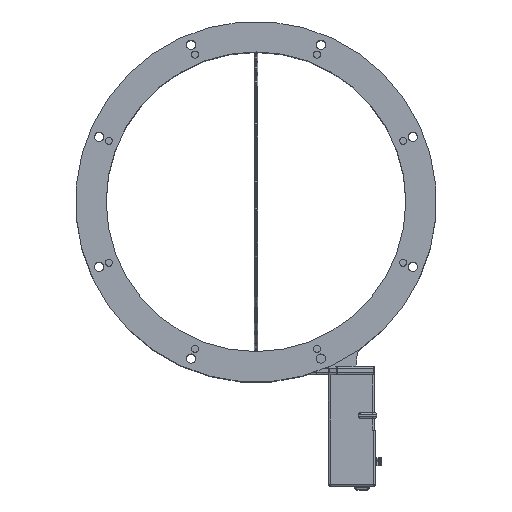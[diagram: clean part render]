
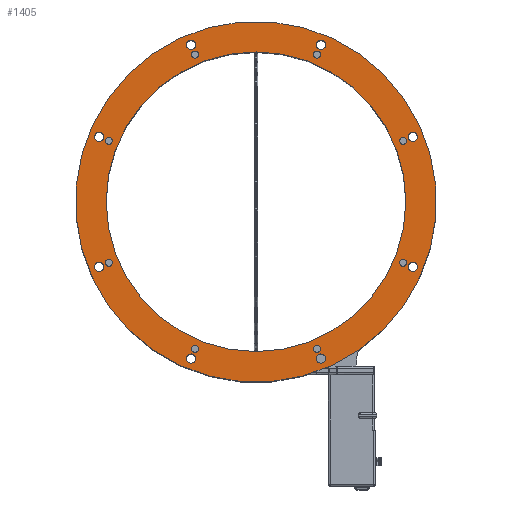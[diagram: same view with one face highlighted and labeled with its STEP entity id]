
A CAD part, top view. The second image highlights one B-rep face of the part: STEP entity #1405.
In plain terms, the highlighted planar face has unit normal (0, 0, 1).
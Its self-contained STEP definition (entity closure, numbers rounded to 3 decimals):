
#918=CARTESIAN_POINT('',(171.756,-171.756,219.));
#919=VERTEX_POINT('',#918);
#928=CARTESIAN_POINT('',(0.,0.,219.));
#929=DIRECTION('',(0.707,-0.707,0.));
#930=DIRECTION('',(0.,0.,-1.));
#931=AXIS2_PLACEMENT_3D('',#928,#930,#929);
#932=CIRCLE('',#931,242.9);
#933=EDGE_CURVE('',#919,#919,#932,.T.);
#944=CARTESIAN_POINT('',(217.449,87.481,219.));
#945=VERTEX_POINT('',#944);
#952=CARTESIAN_POINT('',(211.199,87.481,219.));
#953=DIRECTION('',(1.,0.,0.));
#954=DIRECTION('',(0.,0.,1.));
#955=AXIS2_PLACEMENT_3D('',#952,#954,#953);
#956=CIRCLE('',#955,6.25);
#957=EDGE_CURVE('',#945,#945,#956,.T.);
#969=CARTESIAN_POINT('',(202.922,-82.086,219.));
#970=VERTEX_POINT('',#969);
#977=CARTESIAN_POINT('',(198.172,-82.086,219.));
#978=DIRECTION('',(1.,0.,0.));
#979=DIRECTION('',(0.,0.,1.));
#980=AXIS2_PLACEMENT_3D('',#977,#979,#978);
#981=CIRCLE('',#980,4.75);
#982=EDGE_CURVE('',#970,#970,#981,.T.);
#994=CARTESIAN_POINT('',(93.731,-211.199,219.));
#995=VERTEX_POINT('',#994);
#1002=CARTESIAN_POINT('',(87.481,-211.199,219.));
#1003=DIRECTION('',(1.,0.,0.));
#1004=DIRECTION('',(0.,0.,1.));
#1005=AXIS2_PLACEMENT_3D('',#1002,#1004,#1003);
#1006=CIRCLE('',#1005,6.25);
#1007=EDGE_CURVE('',#995,#995,#1006,.T.);
#1019=CARTESIAN_POINT('',(-77.336,-198.172,219.));
#1020=VERTEX_POINT('',#1019);
#1027=CARTESIAN_POINT('',(-82.086,-198.172,219.));
#1028=DIRECTION('',(1.,0.,0.));
#1029=DIRECTION('',(0.,0.,1.));
#1030=AXIS2_PLACEMENT_3D('',#1027,#1029,#1028);
#1031=CIRCLE('',#1030,4.75);
#1032=EDGE_CURVE('',#1020,#1020,#1031,.T.);
#1044=CARTESIAN_POINT('',(-204.949,-87.481,219.));
#1045=VERTEX_POINT('',#1044);
#1052=CARTESIAN_POINT('',(-211.199,-87.481,219.));
#1053=DIRECTION('',(1.,0.,0.));
#1054=DIRECTION('',(0.,0.,1.));
#1055=AXIS2_PLACEMENT_3D('',#1052,#1054,#1053);
#1056=CIRCLE('',#1055,6.25);
#1057=EDGE_CURVE('',#1045,#1045,#1056,.T.);
#1069=CARTESIAN_POINT('',(-193.422,82.086,219.));
#1070=VERTEX_POINT('',#1069);
#1077=CARTESIAN_POINT('',(-198.172,82.086,219.));
#1078=DIRECTION('',(1.,0.,0.));
#1079=DIRECTION('',(0.,0.,1.));
#1080=AXIS2_PLACEMENT_3D('',#1077,#1079,#1078);
#1081=CIRCLE('',#1080,4.75);
#1082=EDGE_CURVE('',#1070,#1070,#1081,.T.);
#1094=CARTESIAN_POINT('',(-81.231,211.199,219.));
#1095=VERTEX_POINT('',#1094);
#1102=CARTESIAN_POINT('',(-87.481,211.199,219.));
#1103=DIRECTION('',(1.,0.,0.));
#1104=DIRECTION('',(0.,0.,1.));
#1105=AXIS2_PLACEMENT_3D('',#1102,#1104,#1103);
#1106=CIRCLE('',#1105,6.25);
#1107=EDGE_CURVE('',#1095,#1095,#1106,.T.);
#1119=CARTESIAN_POINT('',(86.836,198.172,219.));
#1120=VERTEX_POINT('',#1119);
#1127=CARTESIAN_POINT('',(82.086,198.172,219.));
#1128=DIRECTION('',(1.,-0.,0.));
#1129=DIRECTION('',(0.,0.,1.));
#1130=AXIS2_PLACEMENT_3D('',#1127,#1129,#1128);
#1131=CIRCLE('',#1130,4.75);
#1132=EDGE_CURVE('',#1120,#1120,#1131,.T.);
#1144=CARTESIAN_POINT('',(93.731,211.199,219.));
#1145=VERTEX_POINT('',#1144);
#1152=CARTESIAN_POINT('',(87.481,211.199,219.));
#1153=DIRECTION('',(1.,0.,0.));
#1154=DIRECTION('',(0.,0.,1.));
#1155=AXIS2_PLACEMENT_3D('',#1152,#1154,#1153);
#1156=CIRCLE('',#1155,6.25);
#1157=EDGE_CURVE('',#1145,#1145,#1156,.T.);
#1169=CARTESIAN_POINT('',(-77.336,198.172,219.));
#1170=VERTEX_POINT('',#1169);
#1177=CARTESIAN_POINT('',(-82.086,198.172,219.));
#1178=DIRECTION('',(1.,0.,0.));
#1179=DIRECTION('',(0.,0.,1.));
#1180=AXIS2_PLACEMENT_3D('',#1177,#1179,#1178);
#1181=CIRCLE('',#1180,4.75);
#1182=EDGE_CURVE('',#1170,#1170,#1181,.T.);
#1194=CARTESIAN_POINT('',(-204.949,87.481,219.));
#1195=VERTEX_POINT('',#1194);
#1202=CARTESIAN_POINT('',(-211.199,87.481,219.));
#1203=DIRECTION('',(1.,0.,0.));
#1204=DIRECTION('',(0.,0.,1.));
#1205=AXIS2_PLACEMENT_3D('',#1202,#1204,#1203);
#1206=CIRCLE('',#1205,6.25);
#1207=EDGE_CURVE('',#1195,#1195,#1206,.T.);
#1219=CARTESIAN_POINT('',(-193.422,-82.086,219.));
#1220=VERTEX_POINT('',#1219);
#1227=CARTESIAN_POINT('',(-198.172,-82.086,219.));
#1228=DIRECTION('',(1.,0.,0.));
#1229=DIRECTION('',(0.,0.,1.));
#1230=AXIS2_PLACEMENT_3D('',#1227,#1229,#1228);
#1231=CIRCLE('',#1230,4.75);
#1232=EDGE_CURVE('',#1220,#1220,#1231,.T.);
#1244=CARTESIAN_POINT('',(-81.231,-211.199,219.));
#1245=VERTEX_POINT('',#1244);
#1252=CARTESIAN_POINT('',(-87.481,-211.199,219.));
#1253=DIRECTION('',(1.,-0.,0.));
#1254=DIRECTION('',(0.,0.,1.));
#1255=AXIS2_PLACEMENT_3D('',#1252,#1254,#1253);
#1256=CIRCLE('',#1255,6.25);
#1257=EDGE_CURVE('',#1245,#1245,#1256,.T.);
#1269=CARTESIAN_POINT('',(86.836,-198.172,219.));
#1270=VERTEX_POINT('',#1269);
#1277=CARTESIAN_POINT('',(82.086,-198.172,219.));
#1278=DIRECTION('',(1.,0.,0.));
#1279=DIRECTION('',(0.,0.,1.));
#1280=AXIS2_PLACEMENT_3D('',#1277,#1279,#1278);
#1281=CIRCLE('',#1280,4.75);
#1282=EDGE_CURVE('',#1270,#1270,#1281,.T.);
#1294=CARTESIAN_POINT('',(217.449,-87.481,219.));
#1295=VERTEX_POINT('',#1294);
#1302=CARTESIAN_POINT('',(211.199,-87.481,219.));
#1303=DIRECTION('',(1.,0.,0.));
#1304=DIRECTION('',(0.,0.,1.));
#1305=AXIS2_PLACEMENT_3D('',#1302,#1304,#1303);
#1306=CIRCLE('',#1305,6.25);
#1307=EDGE_CURVE('',#1295,#1295,#1306,.T.);
#1319=CARTESIAN_POINT('',(202.922,82.086,219.));
#1320=VERTEX_POINT('',#1319);
#1327=CARTESIAN_POINT('',(198.172,82.086,219.));
#1328=DIRECTION('',(1.,0.,0.));
#1329=DIRECTION('',(0.,0.,1.));
#1330=AXIS2_PLACEMENT_3D('',#1327,#1329,#1328);
#1331=CIRCLE('',#1330,4.75);
#1332=EDGE_CURVE('',#1320,#1320,#1331,.T.);
#1338=CARTESIAN_POINT('',(0.,0.,219.));
#1339=DIRECTION('',(1.,0.,0.));
#1340=DIRECTION('',(0.,0.,1.));
#1341=AXIS2_PLACEMENT_3D('',#1338,#1340,#1339);
#1342=PLANE('',#1341);
#1343=ORIENTED_EDGE('',*,*,#933,.F.);
#1344=EDGE_LOOP('',(#1343));
#1345=FACE_OUTER_BOUND('',#1344,.T.);
#1346=CARTESIAN_POINT('',(201.7,0.,219.));
#1347=VERTEX_POINT('',#1346);
#1348=CARTESIAN_POINT('',(0.,0.,219.));
#1349=DIRECTION('',(1.,0.,-0.));
#1350=DIRECTION('',(0.,-0.,-1.));
#1351=AXIS2_PLACEMENT_3D('',#1348,#1350,#1349);
#1352=CIRCLE('',#1351,201.7);
#1353=EDGE_CURVE('',#1347,#1347,#1352,.T.);
#1354=ORIENTED_EDGE('E107',*,*,#1353,.T.);
#1355=EDGE_LOOP('',(#1354));
#1356=FACE_BOUND('',#1355,.T.);
#1357=ORIENTED_EDGE('',*,*,#1332,.F.);
#1358=EDGE_LOOP('',(#1357));
#1359=FACE_BOUND('',#1358,.T.);
#1360=ORIENTED_EDGE('',*,*,#1307,.F.);
#1361=EDGE_LOOP('',(#1360));
#1362=FACE_BOUND('',#1361,.T.);
#1363=ORIENTED_EDGE('',*,*,#1282,.F.);
#1364=EDGE_LOOP('',(#1363));
#1365=FACE_BOUND('',#1364,.T.);
#1366=ORIENTED_EDGE('',*,*,#1257,.F.);
#1367=EDGE_LOOP('',(#1366));
#1368=FACE_BOUND('',#1367,.T.);
#1369=ORIENTED_EDGE('',*,*,#1232,.F.);
#1370=EDGE_LOOP('',(#1369));
#1371=FACE_BOUND('',#1370,.T.);
#1372=ORIENTED_EDGE('',*,*,#1207,.F.);
#1373=EDGE_LOOP('',(#1372));
#1374=FACE_BOUND('',#1373,.T.);
#1375=ORIENTED_EDGE('',*,*,#1182,.F.);
#1376=EDGE_LOOP('',(#1375));
#1377=FACE_BOUND('',#1376,.T.);
#1378=ORIENTED_EDGE('',*,*,#1157,.F.);
#1379=EDGE_LOOP('',(#1378));
#1380=FACE_BOUND('',#1379,.T.);
#1381=ORIENTED_EDGE('',*,*,#1132,.F.);
#1382=EDGE_LOOP('',(#1381));
#1383=FACE_BOUND('',#1382,.T.);
#1384=ORIENTED_EDGE('',*,*,#1107,.F.);
#1385=EDGE_LOOP('',(#1384));
#1386=FACE_BOUND('',#1385,.T.);
#1387=ORIENTED_EDGE('',*,*,#1082,.F.);
#1388=EDGE_LOOP('',(#1387));
#1389=FACE_BOUND('',#1388,.T.);
#1390=ORIENTED_EDGE('',*,*,#1057,.F.);
#1391=EDGE_LOOP('',(#1390));
#1392=FACE_BOUND('',#1391,.T.);
#1393=ORIENTED_EDGE('',*,*,#1032,.F.);
#1394=EDGE_LOOP('',(#1393));
#1395=FACE_BOUND('',#1394,.T.);
#1396=ORIENTED_EDGE('',*,*,#1007,.F.);
#1397=EDGE_LOOP('',(#1396));
#1398=FACE_BOUND('',#1397,.T.);
#1399=ORIENTED_EDGE('',*,*,#982,.F.);
#1400=EDGE_LOOP('',(#1399));
#1401=FACE_BOUND('',#1400,.T.);
#1402=ORIENTED_EDGE('',*,*,#957,.F.);
#1403=EDGE_LOOP('',(#1402));
#1404=FACE_BOUND('',#1403,.T.);
#1405=ADVANCED_FACE('F43',(#1345,#1356,#1359,#1362,#1365,#1368,#1371,#1374,#1377,#1380,#1383,#1386,#1389,#1392,#1395,#1398,#1401,#1404),#1342,.T.);
